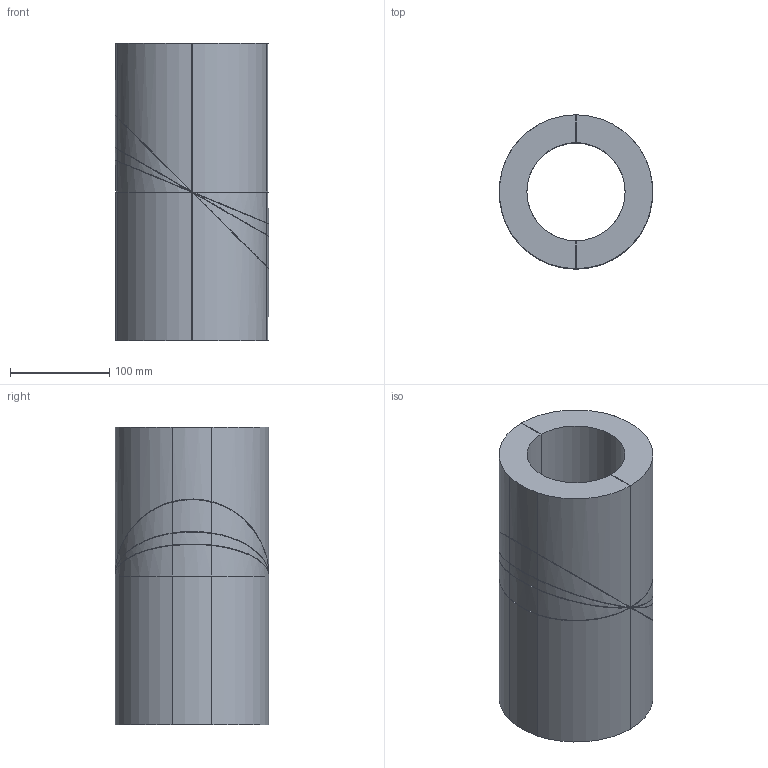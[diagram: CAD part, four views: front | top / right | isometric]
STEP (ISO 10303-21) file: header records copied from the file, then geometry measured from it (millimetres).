
FILE_DESCRIPTION(/* description */ (''),/* implementation_level */ '2;1');
FILE_NAME(/* name */ 'Z:\Geberit\Export\NewStep\307820.stp',/* time_stamp */ '2014-04-01T20:05:05+02:00',/* author */ ('bruh'),/* organization */ (''),/* preprocessor_version */ 'ST-DEVELOPER v15.2',/* originating_system */ 'Autodesk Inventor 2014',/* authorisation */ '');
FILE_SCHEMA (('AUTOMOTIVE_DESIGN { 1 0 10303 214 3 1 1 }'));
Length unit declared in the file: millimetre
Products named in the file (1): 307820
Bounding box: 154.47 x 155 x 300 mm (x, y, z)
Volume: 3311300.2 mm3; surface area: 396108.3 mm2
Topology: 10 solids, 10 shells, 116 faces, 288 edges, 192 vertices
Faces by surface type: plane 56, cylinder 40, bspline 20
Entity records: 3684 total; most frequent: CARTESIAN_POINT 721, DIRECTION 622, ORIENTED_EDGE 576, EDGE_CURVE 288, AXIS2_PLACEMENT_3D 237, VERTEX_POINT 192, LINE 148, VECTOR 148
